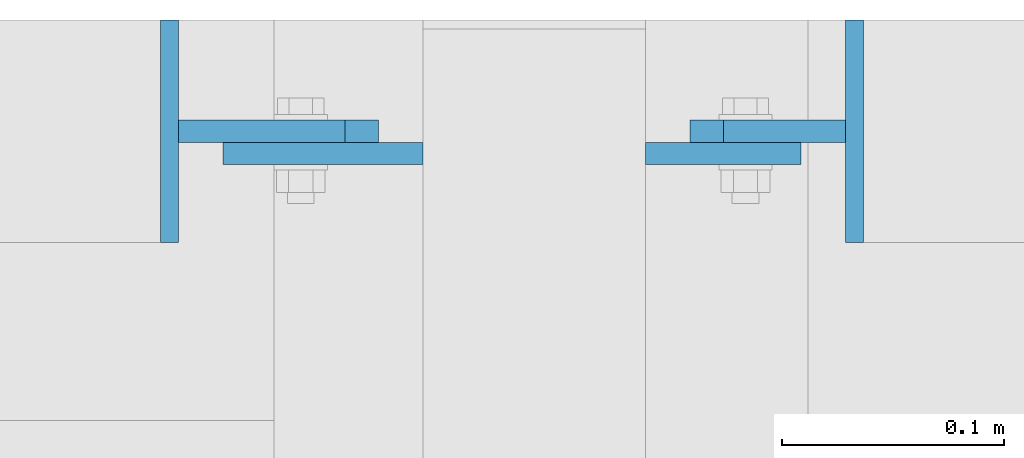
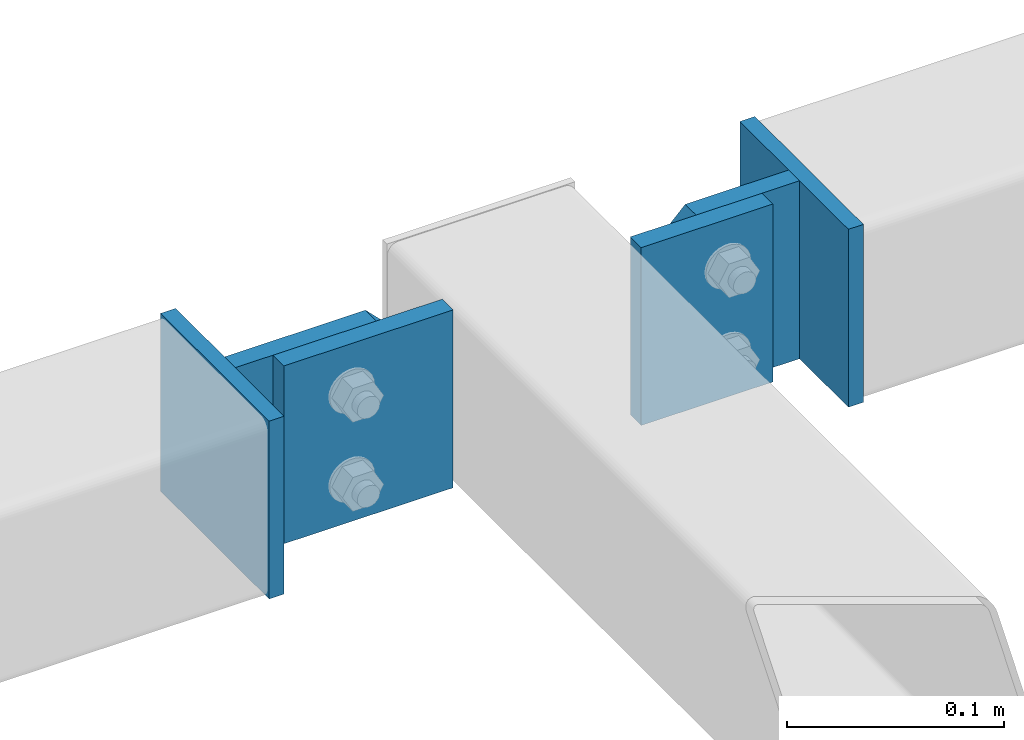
# One storey, part 184 of 271: 6 plates, 3 elements without a shape of their own.
"""IFC2X3 building model written with IfcOpenShell, lengths in millimetres."""

from ifc_helpers import new_model, si_unit, frame, origin_with_axes, place, context, subcontext, project, spatial, polyline, outline, extrude, material, type_object, element, aggregate, save


model = new_model("IFC2X3")

# Units and contexts
model_context = context("Model", 3, precision=1e-05, world=origin_with_axes())
body_context = subcontext(model_context, "Body", "Model", "MODEL_VIEW")
ifc_project = project(units=[si_unit("LENGTHUNIT", "METRE", prefix="MILLI"), si_unit("AREAUNIT", "SQUARE_METRE"), si_unit("VOLUMEUNIT", "CUBIC_METRE"), si_unit("MASSUNIT", "GRAM", prefix="KILO"), si_unit("TIMEUNIT", "SECOND"), si_unit("PLANEANGLEUNIT", "RADIAN"), si_unit("SOLIDANGLEUNIT", "STERADIAN"), si_unit("THERMODYNAMICTEMPERATUREUNIT", "DEGREE_CELSIUS"), si_unit("LUMINOUSINTENSITYUNIT", "LUMEN")], contexts=[model_context])

# Site, building, storey
site_placement = place(None, origin_with_axes())
site = spatial("IfcSite", under=ifc_project, at=site_placement, Name="Undefined", CompositionType="ELEMENT")
building_placement = place(site_placement, origin_with_axes())
building = spatial("IfcBuilding", under=site, at=building_placement, Name="Undefined", CompositionType="ELEMENT")
storey_placement = place(building_placement, origin_with_axes())
storey = spatial("IfcBuildingStorey", under=building, at=storey_placement, Name="Undefined", CompositionType="ELEMENT", Elevation=0.0)

# Assembly, plate
assembly_1_placement = place(storey_placement, origin_with_axes())
assembly_1 = element("IfcElementAssembly", 1, at=assembly_1_placement, inside=storey, AssemblyPlace="NOTDEFINED", PredefinedType="RIGID_FRAME")
ifc_material = material(Name="STEEL/S355JR")
plate_type_1 = type_object("IfcPlateType", Name="BL8*100", PredefinedType="NOTDEFINED")
plate_1_placement = place(assembly_1_placement, frame((9672.37568709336, 4859.32498425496, 20104.3499999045), z_axis=(-1.0, 0.0, 1.38777878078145e-17), x_axis=(0.0, 0.0, 1.0)))
plate_1 = element("IfcPlate", 2, at=plate_1_placement, type_object=plate_type_1, material=ifc_material, Name="BLACHA", ObjectType="BL8*100", context=body_context, shape_type="SweptSolid", body=[
    extrude(outline(polyline([(0.0, 0.0), (100.0, 0.0), (100.0, 100.0), (1.59161572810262e-12, 100.0), (0.0, 0.0)])), frame((0.0, 0.0, -4.0), z_axis=(0.0, 0.0, 1.0), x_axis=(1.0, 0.0, 0.0)), (0.0, 0.0, 1.0), 8.0),
])

assembly_2_placement = place(storey_placement, origin_with_axes())
assembly_2 = element("IfcElementAssembly", 3, at=assembly_2_placement, inside=storey, AssemblyPlace="NOTDEFINED", PredefinedType="RIGID_FRAME")
plate_2_placement = place(assembly_2_placement, frame((9364.37568709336, 4859.32498425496, 20204.3499999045), z_axis=(1.0, 0.0, 0.0), x_axis=(0.0, 0.0, -1.0)))
plate_2 = element("IfcPlate", 4, at=plate_2_placement, type_object=plate_type_1, material=ifc_material, Name="BLACHA", ObjectType="BL8*100", context=body_context, shape_type="SweptSolid", body=[
    extrude(outline(polyline([(0.0, 0.0), (100.0, 0.0), (100.0, 100.0), (1.59161572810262e-12, 100.0), (0.0, 0.0)])), frame((0.0, 0.0, -4.0), z_axis=(0.0, 0.0, 1.0), x_axis=(1.0, 0.0, 0.0)), (0.0, 0.0, 1.0), 8.0),
])

# Plate
plate_type_2 = type_object("IfcPlateType", Name="BL10*70", PredefinedType="NOTDEFINED")
plate_3_placement = place(assembly_1_placement, frame((9613.37568709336, 4909.32498425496, 20104.3499999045), z_axis=(0.0, 1.0, 0.0), x_axis=(-0.707106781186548, 0.0, 0.707106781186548)))
plate_3 = element("IfcPlate", 5, at=plate_3_placement, type_object=plate_type_2, material=ifc_material, Name="BLACHA", ObjectType="BL10*70", context=body_context, shape_type="SweptSolid", body=[
    extrude(outline(polyline([(0.0, 0.0), (21.2132034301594, 1.09139364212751e-11), (70.7106781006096, 49.4974746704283), (70.7106781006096, 70.7106781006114), (31.8198051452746, 109.601554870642), (-38.890872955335, 38.8908729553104), (0.0, 0.0)])), frame((0.0, 0.0, -5.0), z_axis=(0.0, 0.0, 1.0), x_axis=(1.0, 0.0, 0.0)), (0.0, 0.0, 1.0), 10.0),
])

aggregate(assembly_1, [plate_1, plate_3])

# Assembly, plate
assembly_3_placement = place(storey_placement, origin_with_axes())
assembly_3 = element("IfcElementAssembly", 6, at=assembly_3_placement, inside=storey, AssemblyPlace="NOTDEFINED", PredefinedType="RIGID_FRAME")
plate_4_placement = place(assembly_3_placement, frame((9578.37568709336, 4899.32498425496, 20104.3499999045), z_axis=(0.0, 1.0, 0.0), x_axis=(0.0, 0.0, 1.0)))
plate_4 = element("IfcPlate", 7, at=plate_4_placement, type_object=plate_type_2, material=ifc_material, Name="BLACHA", ObjectType="BL10*70", context=body_context, shape_type="SweptSolid", body=[
    extrude(outline(polyline([(0.0, 0.0), (100.0, 0.0), (100.0, 70.0), (0.0, 70.0), (0.0, 0.0)])), frame((0.0, 0.0, -5.0), z_axis=(0.0, 0.0, 1.0), x_axis=(1.0, 0.0, 0.0)), (0.0, 0.0, 1.0), 10.0),
])

# Plate
plate_type_3 = type_object("IfcPlateType", Name="BL10*90", PredefinedType="NOTDEFINED")
plate_5_placement = place(assembly_2_placement, frame((9443.37568709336, 4909.32498425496, 20204.3499999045), z_axis=(0.0, 1.0, 0.0), x_axis=(0.70710678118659, 0.0, -0.707106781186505)))
plate_5 = element("IfcPlate", 8, at=plate_5_placement, type_object=plate_type_3, material=ifc_material, Name="BLACHA", ObjectType="BL10*90", context=body_context, shape_type="SweptSolid", body=[
    extrude(outline(polyline([(0.0, 0.0), (21.2132034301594, 1.09139364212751e-11), (70.7106781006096, 49.4974746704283), (70.7106781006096, 70.7106781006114), (17.6776695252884, 123.743690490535), (-53.033008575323, 53.0330085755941), (0.0, 0.0)])), frame((0.0, 0.0, -5.0), z_axis=(0.0, 0.0, 1.0), x_axis=(1.0, 0.0, 0.0)), (0.0, 0.0, 1.0), 10.0),
])

aggregate(assembly_2, [plate_2, plate_5])

plate_6_placement = place(assembly_3_placement, frame((9478.37568709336, 4899.32498425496, 20204.3499999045), z_axis=(0.0, 1.0, 0.0), x_axis=(0.0, 0.0, -1.0)))
plate_6 = element("IfcPlate", 9, at=plate_6_placement, type_object=plate_type_3, material=ifc_material, Name="BLACHA", ObjectType="BL10*90", context=body_context, shape_type="SweptSolid", body=[
    extrude(outline(polyline([(0.0, 0.0), (100.0, 0.0), (100.0, 90.0), (0.0, 90.0), (0.0, 0.0)])), frame((0.0, 0.0, -5.0), z_axis=(0.0, 0.0, 1.0), x_axis=(1.0, 0.0, 0.0)), (0.0, 0.0, 1.0), 10.0),
])

aggregate(assembly_3, [plate_4, plate_6])

save(model, "model.ifc")
